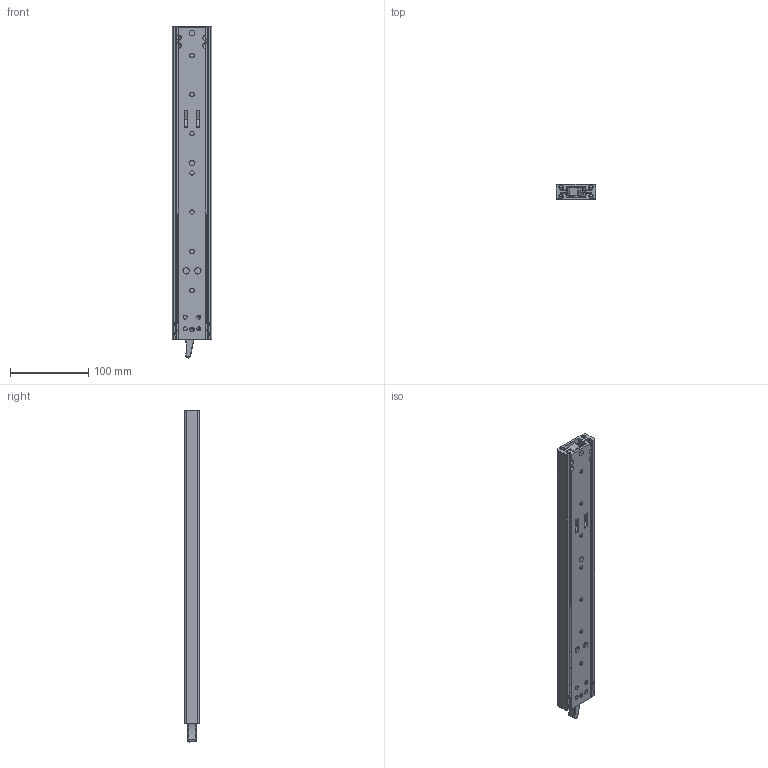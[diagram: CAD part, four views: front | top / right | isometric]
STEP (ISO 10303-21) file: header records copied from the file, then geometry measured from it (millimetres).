
FILE_DESCRIPTION (( 'STEP AP214' ), '1' );
FILE_NAME ('220-400-closed.STEP', '2024-08-20T10:45:25', ( '' ), ( '' ), 'SwSTEP 2.0', 'SolidWorks 2024', '' );
FILE_SCHEMA (( 'AUTOMOTIVE_DESIGN' ));
Length unit declared in the file: millimetre
Products named in the file (12): 220-400-closed; 61_12279_06.STEP_Part45; 370_002_070_4.STEP_Part51; 61_12280_06_Beam Assembled - Stop Raises .STEP_Part46; 301_000_008_Fitted_4.STEP_Part49; 400_000_004_4.STEP_Part53; 61_13331_Pin Fitted_4.STEP_Part47; 61_12276_4.STEP_Part55; 61_12274_4.STEP_Part50; 61_12284_06_closed.STEP_Assem9; 61_12278_08.STEP_Part54; 61_12282_4.STEP_Part48
Assembly tree (26 placements, depth 3):
  220-400-closed
    61_12284_06_closed.STEP_Assem9
      61_12279_06.STEP_Part45
      61_12280_06_Beam Assembled - Stop Raises .STEP_Part46  x2
      61_13331_Pin Fitted_4.STEP_Part47  x4
      61_12282_4.STEP_Part48
      301_000_008_Fitted_4.STEP_Part49  x2
      61_12274_4.STEP_Part50
      370_002_070_4.STEP_Part51
      400_000_004_4.STEP_Part53  x8
      61_12278_08.STEP_Part54  x4
      61_12276_4.STEP_Part55
Bounding box: 50.7 x 19.75 x 423.69 mm (x, y, z)
Volume: 231280.8 mm3; surface area: 160610.4 mm2
Topology: 25 solids, 25 shells, 1253 faces, 3237 edges, 2012 vertices
Faces by surface type: cylinder 546, plane 279, sphere 225, cone 80, torus 77, bspline 46
Entity records: 28472 total; most frequent: CARTESIAN_POINT 8740, DIRECTION 4244, ORIENTED_EDGE 4010, EDGE_CURVE 2005, AXIS2_PLACEMENT_3D 1698, VERTEX_POINT 1239, CIRCLE 927, EDGE_LOOP 896
